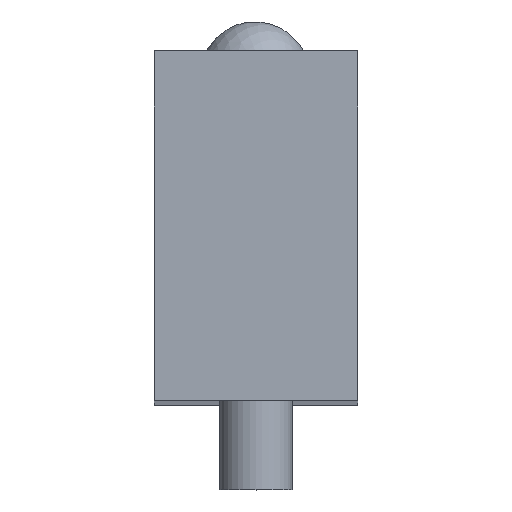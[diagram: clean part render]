
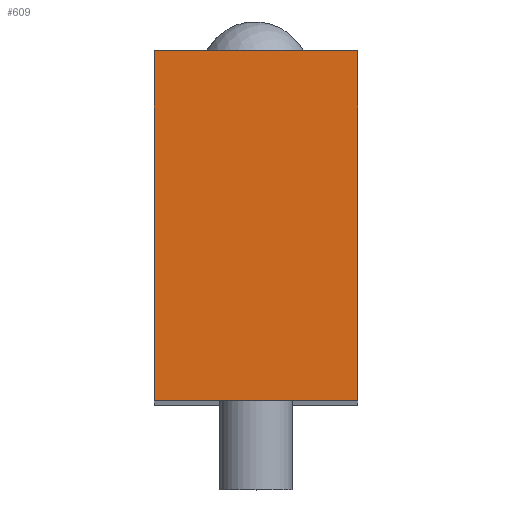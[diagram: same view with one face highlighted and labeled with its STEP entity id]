
A CAD part, top view. The second image highlights one B-rep face of the part: STEP entity #609.
In plain terms, the highlighted planar face has unit normal (0, 0, 1).
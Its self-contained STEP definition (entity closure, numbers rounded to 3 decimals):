
#38=LINE('',#1033,#62);
#42=LINE('',#1046,#66);
#49=LINE('',#1067,#73);
#50=LINE('',#1069,#74);
#62=VECTOR('',#867,10.);
#66=VECTOR('',#877,10.);
#73=VECTOR('',#902,10.);
#74=VECTOR('',#905,10.);
#144=FACE_OUTER_BOUND('',#202,.T.);
#202=EDGE_LOOP('',(#509,#510,#511,#512));
#290=VERTEX_POINT('',#1030);
#291=VERTEX_POINT('',#1032);
#296=VERTEX_POINT('',#1043);
#297=VERTEX_POINT('',#1045);
#354=EDGE_CURVE('',#291,#290,#38,.T.);
#360=EDGE_CURVE('',#297,#296,#42,.T.);
#371=EDGE_CURVE('',#290,#297,#49,.T.);
#372=EDGE_CURVE('',#296,#291,#50,.T.);
#509=ORIENTED_EDGE('',*,*,#360,.T.);
#510=ORIENTED_EDGE('',*,*,#372,.T.);
#511=ORIENTED_EDGE('',*,*,#354,.T.);
#512=ORIENTED_EDGE('',*,*,#371,.T.);
#530=PLANE('',#713);
#609=ADVANCED_FACE('',(#144),#530,.T.);
#713=AXIS2_PLACEMENT_3D('',#1070,#906,#907);
#867=DIRECTION('',(-1.,0.,0.));
#877=DIRECTION('',(1.,0.,0.));
#902=DIRECTION('',(0.,-1.,0.));
#905=DIRECTION('',(0.,1.,0.));
#906=DIRECTION('center_axis',(0.,0.,1.));
#907=DIRECTION('ref_axis',(1.,0.,0.));
#1030=CARTESIAN_POINT('',(-13.9,47.8,55.));
#1032=CARTESIAN_POINT('',(13.9,47.8,55.));
#1033=CARTESIAN_POINT('',(13.9,47.8,55.));
#1043=CARTESIAN_POINT('',(13.9,0.,55.));
#1045=CARTESIAN_POINT('',(-13.9,0.,55.));
#1046=CARTESIAN_POINT('',(-13.9,0.,55.));
#1067=CARTESIAN_POINT('',(-13.9,47.8,55.));
#1069=CARTESIAN_POINT('',(13.9,0.,55.));
#1070=CARTESIAN_POINT('Origin',(0.,23.9,55.));
